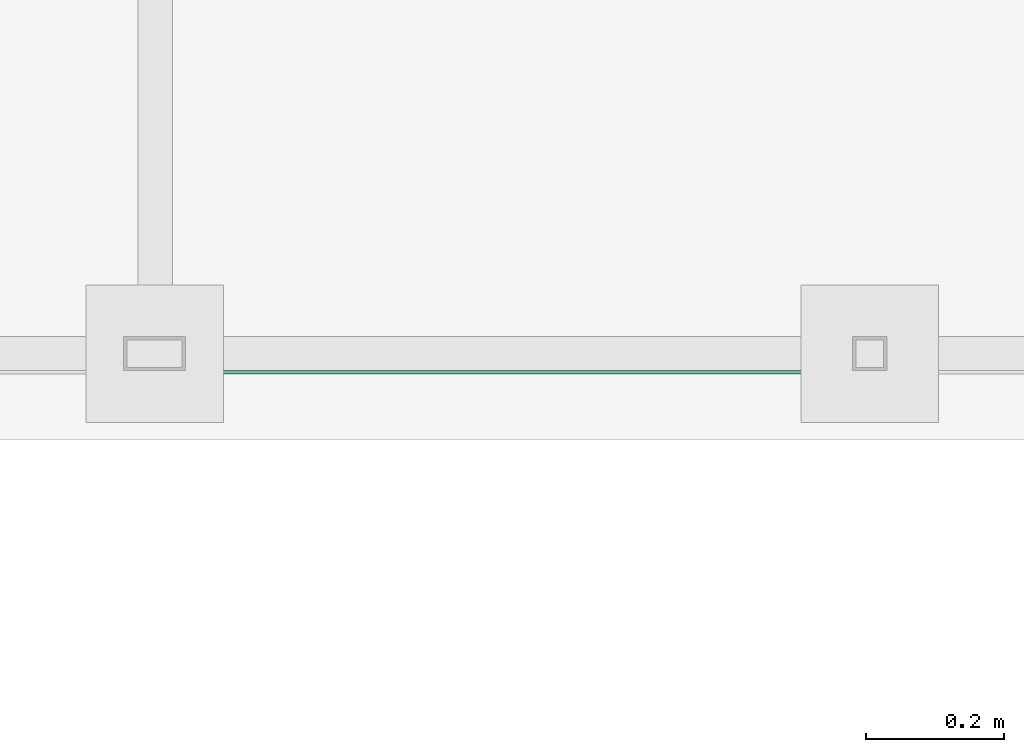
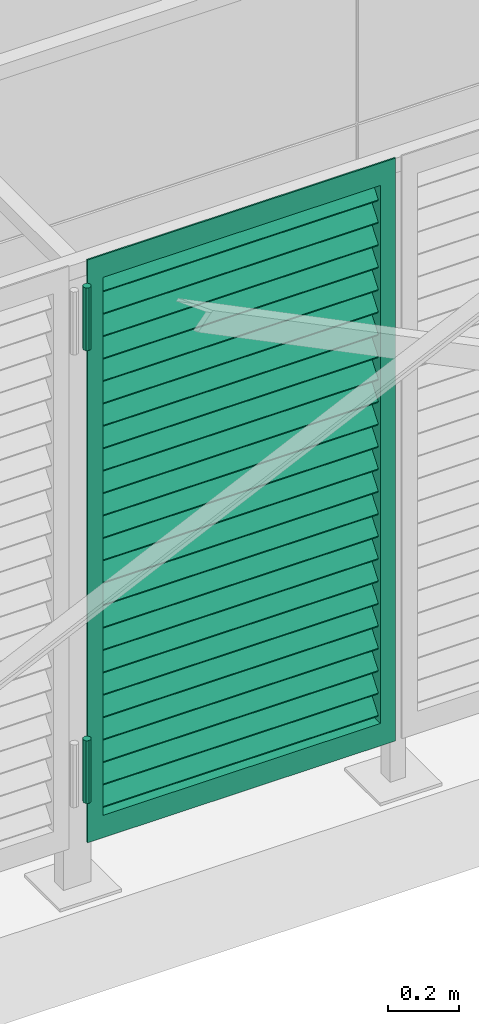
# One storey, part 176 of 418: 1 distribution flow element.
"""IFC2X3 building model written with IfcOpenShell, lengths in millimetres."""

from ifc_helpers import new_model, entity, si_unit, converted_unit, derived_unit, money_unit, direction, frame, origin_with_axes, place, context, subcontext, project, spatial, faceted_brep, source, transform, mapped, material, material_list, type_object, element, save


model = new_model("IFC2X3")

# Units and contexts
model_context = context("Model", 3, precision=0.01, world=origin_with_axes(), true_north=direction((0.0, 1.0)))
body_context = subcontext(model_context, "Body", "Model", "MODEL_VIEW")
ifc_project = project(units=[si_unit("LENGTHUNIT", "METRE", prefix="MILLI"), si_unit("AREAUNIT", "SQUARE_METRE"), si_unit("VOLUMEUNIT", "CUBIC_METRE"), converted_unit("PLANEANGLEUNIT", "DEGREE", entity("IfcPlaneAngleMeasure", 0.0174532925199), si_unit("PLANEANGLEUNIT", "RADIAN"), dimensions=[0, 0, 0, 0, 0, 0, 0]), si_unit("SOLIDANGLEUNIT", "STERADIAN"), money_unit("EUR"), converted_unit("TIMEUNIT", "Year", entity("IfcTimeMeasure", 31556926.0), si_unit("TIMEUNIT", "SECOND"), dimensions=[0, 0, 1, 0, 0, 0, 0]), si_unit("MASSUNIT", "GRAM", prefix="KILO"), si_unit("THERMODYNAMICTEMPERATUREUNIT", "DEGREE_CELSIUS"), si_unit("LUMINOUSINTENSITYUNIT", "LUMEN"), si_unit("ENERGYUNIT", "JOULE", prefix="MEGA"), derived_unit("THERMALCONDUCTANCEUNIT", [(si_unit("POWERUNIT", "WATT"), 1), (si_unit("LENGTHUNIT", "METRE"), -1), (si_unit("THERMODYNAMICTEMPERATUREUNIT", "KELVIN"), -1)]), derived_unit("SPECIFICHEATCAPACITYUNIT", [(si_unit("ENERGYUNIT", "JOULE"), 1), (si_unit("MASSUNIT", "GRAM", prefix="KILO"), -1), (si_unit("THERMODYNAMICTEMPERATUREUNIT", "KELVIN"), -1)]), derived_unit("MASSDENSITYUNIT", [(si_unit("MASSUNIT", "GRAM", prefix="KILO"), 1), (si_unit("VOLUMEUNIT", "CUBIC_METRE"), -1)])], contexts=[model_context])

# Site, building, storey
site_placement = place(None, origin_with_axes())
site = spatial("IfcSite", under=ifc_project, at=site_placement, Name="Paldiski mnt 245/1, Tallinn, Harjumaa", CompositionType="COMPLEX")
building_placement = place(site_placement, origin_with_axes())
building = spatial("IfcBuilding", under=site, at=building_placement, Name="RKAS Hoone üldnimetus (kasutust iseloomustav) -> IFC Project Manager -> SOLIBRI", CompositionType="ELEMENT")
storey_placement = place(building_placement, origin_with_axes())
storey = spatial("IfcBuildingStorey", under=building, at=storey_placement, Name="Esimene korrus", CompositionType="ELEMENT", Elevation=0.0)

# Distribution flow element
ifc_material_1 = material(Name="Teras")
ifc_material_2 = material(Name="ET-05_Teras")
ifc_material_list = material_list([ifc_material_1, ifc_material_2])
valve_type = type_object("IfcValveType", Name="Rest_1", PredefinedType="USERDEFINED")
shared_shape = source(origin_with_axes(), body_context, "Body", "Brep", [
    faceted_brep([(72.0, 25.0, 2000.0), (72.0, 25.0, 1923.07692308), (72.0, 25.0, 76.9230769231), (72.0, 25.0, 0.0), (72.0, 30.0, 0.0), (72.0, 30.0, 76.9230769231), (72.0, 30.0, 1923.07692308), (72.0, 30.0, 2000.0), (22.0, 25.0, 2000.0), (22.0, 25.0, 0.0), (22.0, 30.0, 0.0), (22.0, 30.0, 2000.0)], [[[0, 1, 2, 3, 4, 5, 6, 7]], [[3, 2, 1, 0, 8, 9]], [[10, 4, 3, 9]], [[7, 6, 5, 4, 10, 11]], [[8, 0, 7, 11]], [[8, 11, 10, 9]]]),
    faceted_brep([(972.0, 30.0, 0.0), (972.0, 25.0, 0.0), (72.0, 25.0, 0.0), (72.0, 30.0, 0.0), (972.0, 30.0, 76.9230769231), (972.0, 25.0, 76.9230769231), (72.0, 25.0, 76.9230769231), (72.0, 30.0, 76.9230769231)], [[[0, 1, 2, 3]], [[0, 4, 5, 1]], [[1, 5, 6, 2]], [[3, 2, 6, 7]], [[4, 0, 3, 7]], [[5, 4, 7, 6]]]),
    faceted_brep([(972.0, 30.0, 0.0), (972.0, 30.0, 76.9230769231), (972.0, 30.0, 1923.07692308), (972.0, 30.0, 2000.0), (1022.0, 30.0, 2000.0), (1022.0, 30.0, 0.0), (972.0, 25.0, 0.0), (972.0, 25.0, 76.9230769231), (972.0, 25.0, 1923.07692308), (972.0, 25.0, 2000.0), (1022.0, 25.0, 2000.0), (1022.0, 25.0, 0.0)], [[[0, 1, 2, 3, 4, 5]], [[6, 7, 8, 9, 3, 2, 1, 0]], [[4, 3, 9, 10]], [[10, 11, 5, 4]], [[11, 6, 0, 5]], [[9, 8, 7, 6, 11, 10]]]),
    faceted_brep([(977.0, 30.0, 76.9230769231), (972.0, 30.0, 76.9230769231), (972.0, 80.0, 76.9230769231), (977.0, 80.0, 76.9230769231), (977.0, 30.0, 1923.07692308), (972.0, 30.0, 1923.07692308), (972.0, 80.0, 1923.07692308), (977.0, 80.0, 1923.07692308)], [[[0, 1, 2, 3]], [[4, 5, 1, 0]], [[1, 5, 6, 2]], [[7, 3, 2, 6]], [[4, 0, 3, 7]], [[5, 4, 7, 6]]]),
    faceted_brep([(67.0, 30.0, 1923.07692308), (72.0, 30.0, 1923.07692308), (72.0, 80.0, 1923.07692308), (67.0, 80.0, 1923.07692308), (67.0, 30.0, 76.9230769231), (72.0, 30.0, 76.9230769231), (72.0, 80.0, 76.9230769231), (67.0, 80.0, 76.9230769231)], [[[0, 1, 2, 3]], [[4, 5, 1, 0]], [[1, 5, 6, 2]], [[7, 3, 2, 6]], [[4, 0, 3, 7]], [[5, 4, 7, 6]]]),
    faceted_brep([(972.0, 30.0, 1923.07692308), (972.0, 25.0, 1923.07692308), (72.0, 25.0, 1923.07692308), (72.0, 30.0, 1923.07692308), (972.0, 30.0, 2000.0), (972.0, 25.0, 2000.0), (72.0, 25.0, 2000.0), (72.0, 30.0, 2000.0)], [[[0, 1, 2, 3]], [[0, 4, 5, 1]], [[1, 5, 6, 2]], [[3, 2, 6, 7]], [[4, 0, 3, 7]], [[5, 4, 7, 6]]]),
    faceted_brep([(67.0, 30.0, 69.2307692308), (977.0, 30.0, 69.2307692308), (977.0, 30.0, 76.9230769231), (67.0, 30.0, 76.9230769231), (67.0, 80.0, 69.2307692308), (977.0, 80.0, 69.2307692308), (977.0, 80.0, 76.9230769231), (67.0, 80.0, 76.9230769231)], [[[0, 1, 2, 3]], [[0, 4, 5, 1]], [[1, 5, 6, 2]], [[3, 2, 6, 7]], [[4, 0, 3, 7]], [[5, 4, 7, 6]]]),
    faceted_brep([(67.0, 30.0, 1923.07692308), (977.0, 30.0, 1923.07692308), (977.0, 30.0, 1930.76923077), (67.0, 30.0, 1930.76923077), (67.0, 80.0, 1923.07692308), (977.0, 80.0, 1923.07692308), (977.0, 80.0, 1930.76923077), (67.0, 80.0, 1930.76923077)], [[[0, 1, 2, 3]], [[0, 4, 5, 1]], [[1, 5, 6, 2]], [[3, 2, 6, 7]], [[4, 0, 3, 7]], [[5, 4, 7, 6]]]),
    faceted_brep([(972.0, 77.3650491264, 141.906873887), (972.0, 39.0628269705, 92.4616731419), (72.0, 39.0628269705, 92.4616731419), (72.0, 77.3650491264, 141.906873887), (972.0, 74.151111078, 147.799523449), (972.0, 35.848888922, 98.3543227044), (72.0, 35.848888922, 98.3543227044), (72.0, 74.151111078, 147.799523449)], [[[0, 1, 2, 3]], [[0, 4, 5, 1]], [[1, 5, 6, 2]], [[3, 2, 6, 7]], [[4, 0, 3, 7]], [[5, 4, 7, 6]]]),
    faceted_brep([(972.0, 77.3650491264, 218.82995081), (972.0, 39.0628269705, 169.384750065), (72.0, 39.0628269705, 169.384750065), (72.0, 77.3650491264, 218.82995081), (972.0, 74.151111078, 224.722600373), (972.0, 35.848888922, 175.277399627), (72.0, 35.848888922, 175.277399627), (72.0, 74.151111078, 224.722600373)], [[[0, 1, 2, 3]], [[0, 4, 5, 1]], [[1, 5, 6, 2]], [[3, 2, 6, 7]], [[4, 0, 3, 7]], [[5, 4, 7, 6]]]),
    faceted_brep([(972.0, 77.3650491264, 295.753027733), (972.0, 39.0628269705, 246.307826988), (72.0, 39.0628269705, 246.307826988), (72.0, 77.3650491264, 295.753027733), (972.0, 74.151111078, 301.645677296), (972.0, 35.848888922, 252.200476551), (72.0, 35.848888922, 252.200476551), (72.0, 74.151111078, 301.645677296)], [[[0, 1, 2, 3]], [[0, 4, 5, 1]], [[1, 5, 6, 2]], [[3, 2, 6, 7]], [[4, 0, 3, 7]], [[5, 4, 7, 6]]]),
    faceted_brep([(972.0, 77.3650491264, 372.676104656), (972.0, 39.0628269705, 323.230903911), (72.0, 39.0628269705, 323.230903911), (72.0, 77.3650491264, 372.676104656), (972.0, 74.151111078, 378.568754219), (972.0, 35.848888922, 329.123553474), (72.0, 35.848888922, 329.123553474), (72.0, 74.151111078, 378.568754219)], [[[0, 1, 2, 3]], [[0, 4, 5, 1]], [[1, 5, 6, 2]], [[3, 2, 6, 7]], [[4, 0, 3, 7]], [[5, 4, 7, 6]]]),
    faceted_brep([(972.0, 77.3650491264, 449.599181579), (972.0, 39.0628269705, 400.153980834), (72.0, 39.0628269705, 400.153980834), (72.0, 77.3650491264, 449.599181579), (972.0, 74.151111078, 455.491831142), (972.0, 35.848888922, 406.046630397), (72.0, 35.848888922, 406.046630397), (72.0, 74.151111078, 455.491831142)], [[[0, 1, 2, 3]], [[0, 4, 5, 1]], [[1, 5, 6, 2]], [[3, 2, 6, 7]], [[4, 0, 3, 7]], [[5, 4, 7, 6]]]),
    faceted_brep([(972.0, 77.3650491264, 526.522258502), (972.0, 39.0628269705, 477.077057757), (72.0, 39.0628269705, 477.077057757), (72.0, 77.3650491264, 526.522258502), (972.0, 74.151111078, 532.414908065), (972.0, 35.848888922, 482.96970732), (72.0, 35.848888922, 482.96970732), (72.0, 74.151111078, 532.414908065)], [[[0, 1, 2, 3]], [[0, 4, 5, 1]], [[1, 5, 6, 2]], [[3, 2, 6, 7]], [[4, 0, 3, 7]], [[5, 4, 7, 6]]]),
    faceted_brep([(972.0, 77.3650491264, 603.445335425), (972.0, 39.0628269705, 554.00013468), (72.0, 39.0628269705, 554.00013468), (72.0, 77.3650491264, 603.445335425), (972.0, 74.151111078, 609.337984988), (972.0, 35.848888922, 559.892784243), (72.0, 35.848888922, 559.892784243), (72.0, 74.151111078, 609.337984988)], [[[0, 1, 2, 3]], [[0, 4, 5, 1]], [[1, 5, 6, 2]], [[3, 2, 6, 7]], [[4, 0, 3, 7]], [[5, 4, 7, 6]]]),
    faceted_brep([(972.0, 77.3650491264, 680.368412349), (972.0, 39.0628269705, 630.923211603), (72.0, 39.0628269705, 630.923211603), (72.0, 77.3650491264, 680.368412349), (972.0, 74.151111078, 686.261061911), (972.0, 35.848888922, 636.815861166), (72.0, 35.848888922, 636.815861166), (72.0, 74.151111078, 686.261061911)], [[[0, 1, 2, 3]], [[0, 4, 5, 1]], [[1, 5, 6, 2]], [[3, 2, 6, 7]], [[4, 0, 3, 7]], [[5, 4, 7, 6]]]),
    faceted_brep([(972.0, 77.3650491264, 757.291489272), (972.0, 39.0628269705, 707.846288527), (72.0, 39.0628269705, 707.846288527), (72.0, 77.3650491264, 757.291489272), (972.0, 74.151111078, 763.184138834), (972.0, 35.848888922, 713.738938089), (72.0, 35.848888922, 713.738938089), (72.0, 74.151111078, 763.184138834)], [[[0, 1, 2, 3]], [[0, 4, 5, 1]], [[1, 5, 6, 2]], [[3, 2, 6, 7]], [[4, 0, 3, 7]], [[5, 4, 7, 6]]]),
    faceted_brep([(972.0, 77.3650491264, 834.214566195), (972.0, 39.0628269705, 784.76936545), (72.0, 39.0628269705, 784.76936545), (72.0, 77.3650491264, 834.214566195), (972.0, 74.151111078, 840.107215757), (972.0, 35.848888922, 790.662015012), (72.0, 35.848888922, 790.662015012), (72.0, 74.151111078, 840.107215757)], [[[0, 1, 2, 3]], [[0, 4, 5, 1]], [[1, 5, 6, 2]], [[3, 2, 6, 7]], [[4, 0, 3, 7]], [[5, 4, 7, 6]]]),
    faceted_brep([(972.0, 77.3650491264, 911.137643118), (972.0, 39.0628269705, 861.692442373), (72.0, 39.0628269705, 861.692442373), (72.0, 77.3650491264, 911.137643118), (972.0, 74.151111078, 917.03029268), (972.0, 35.848888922, 867.585091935), (72.0, 35.848888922, 867.585091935), (72.0, 74.151111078, 917.03029268)], [[[0, 1, 2, 3]], [[0, 4, 5, 1]], [[1, 5, 6, 2]], [[3, 2, 6, 7]], [[4, 0, 3, 7]], [[5, 4, 7, 6]]]),
    faceted_brep([(972.0, 77.3650491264, 988.060720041), (972.0, 39.0628269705, 938.615519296), (72.0, 39.0628269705, 938.615519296), (72.0, 77.3650491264, 988.060720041), (972.0, 74.151111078, 993.953369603), (972.0, 35.848888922, 944.508168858), (72.0, 35.848888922, 944.508168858), (72.0, 74.151111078, 993.953369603)], [[[0, 1, 2, 3]], [[0, 4, 5, 1]], [[1, 5, 6, 2]], [[3, 2, 6, 7]], [[4, 0, 3, 7]], [[5, 4, 7, 6]]]),
    faceted_brep([(972.0, 77.3650491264, 1064.98379696), (972.0, 39.0628269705, 1015.53859622), (72.0, 39.0628269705, 1015.53859622), (72.0, 77.3650491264, 1064.98379696), (972.0, 74.151111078, 1070.87644653), (972.0, 35.848888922, 1021.43124578), (72.0, 35.848888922, 1021.43124578), (72.0, 74.151111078, 1070.87644653)], [[[0, 1, 2, 3]], [[0, 4, 5, 1]], [[1, 5, 6, 2]], [[3, 2, 6, 7]], [[4, 0, 3, 7]], [[5, 4, 7, 6]]]),
    faceted_brep([(972.0, 77.3650491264, 1141.90687389), (972.0, 39.0628269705, 1092.46167314), (72.0, 39.0628269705, 1092.46167314), (72.0, 77.3650491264, 1141.90687389), (972.0, 74.151111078, 1147.79952345), (972.0, 35.848888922, 1098.3543227), (72.0, 35.848888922, 1098.3543227), (72.0, 74.151111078, 1147.79952345)], [[[0, 1, 2, 3]], [[0, 4, 5, 1]], [[1, 5, 6, 2]], [[3, 2, 6, 7]], [[4, 0, 3, 7]], [[5, 4, 7, 6]]]),
    faceted_brep([(972.0, 77.3650491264, 1218.82995081), (972.0, 39.0628269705, 1169.38475006), (72.0, 39.0628269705, 1169.38475006), (72.0, 77.3650491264, 1218.82995081), (972.0, 74.151111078, 1224.72260037), (972.0, 35.848888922, 1175.27739963), (72.0, 35.848888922, 1175.27739963), (72.0, 74.151111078, 1224.72260037)], [[[0, 1, 2, 3]], [[0, 4, 5, 1]], [[1, 5, 6, 2]], [[3, 2, 6, 7]], [[4, 0, 3, 7]], [[5, 4, 7, 6]]]),
    faceted_brep([(972.0, 77.3650491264, 1295.75302773), (972.0, 39.0628269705, 1246.30782699), (72.0, 39.0628269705, 1246.30782699), (72.0, 77.3650491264, 1295.75302773), (972.0, 74.151111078, 1301.6456773), (972.0, 35.848888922, 1252.20047655), (72.0, 35.848888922, 1252.20047655), (72.0, 74.151111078, 1301.6456773)], [[[0, 1, 2, 3]], [[0, 4, 5, 1]], [[1, 5, 6, 2]], [[3, 2, 6, 7]], [[4, 0, 3, 7]], [[5, 4, 7, 6]]]),
    faceted_brep([(972.0, 77.3650491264, 1372.67610466), (972.0, 39.0628269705, 1323.23090391), (72.0, 39.0628269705, 1323.23090391), (72.0, 77.3650491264, 1372.67610466), (972.0, 74.151111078, 1378.56875422), (972.0, 35.848888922, 1329.12355347), (72.0, 35.848888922, 1329.12355347), (72.0, 74.151111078, 1378.56875422)], [[[0, 1, 2, 3]], [[0, 4, 5, 1]], [[1, 5, 6, 2]], [[3, 2, 6, 7]], [[4, 0, 3, 7]], [[5, 4, 7, 6]]]),
    faceted_brep([(972.0, 77.3650491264, 1449.59918158), (972.0, 39.0628269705, 1400.15398083), (72.0, 39.0628269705, 1400.15398083), (72.0, 77.3650491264, 1449.59918158), (972.0, 74.151111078, 1455.49183114), (972.0, 35.848888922, 1406.0466304), (72.0, 35.848888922, 1406.0466304), (72.0, 74.151111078, 1455.49183114)], [[[0, 1, 2, 3]], [[0, 4, 5, 1]], [[1, 5, 6, 2]], [[3, 2, 6, 7]], [[4, 0, 3, 7]], [[5, 4, 7, 6]]]),
    faceted_brep([(972.0, 77.3650491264, 1526.5222585), (972.0, 39.0628269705, 1477.07705776), (72.0, 39.0628269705, 1477.07705776), (72.0, 77.3650491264, 1526.5222585), (972.0, 74.151111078, 1532.41490806), (972.0, 35.848888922, 1482.96970732), (72.0, 35.848888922, 1482.96970732), (72.0, 74.151111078, 1532.41490806)], [[[0, 1, 2, 3]], [[0, 4, 5, 1]], [[1, 5, 6, 2]], [[3, 2, 6, 7]], [[4, 0, 3, 7]], [[5, 4, 7, 6]]]),
    faceted_brep([(972.0, 77.3650491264, 1603.44533543), (972.0, 39.0628269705, 1554.00013468), (72.0, 39.0628269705, 1554.00013468), (72.0, 77.3650491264, 1603.44533543), (972.0, 74.151111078, 1609.33798499), (972.0, 35.848888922, 1559.89278424), (72.0, 35.848888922, 1559.89278424), (72.0, 74.151111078, 1609.33798499)], [[[0, 1, 2, 3]], [[0, 4, 5, 1]], [[1, 5, 6, 2]], [[3, 2, 6, 7]], [[4, 0, 3, 7]], [[5, 4, 7, 6]]]),
    faceted_brep([(972.0, 77.3650491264, 1680.36841235), (972.0, 39.0628269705, 1630.9232116), (72.0, 39.0628269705, 1630.9232116), (72.0, 77.3650491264, 1680.36841235), (972.0, 74.151111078, 1686.26106191), (972.0, 35.848888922, 1636.81586117), (72.0, 35.848888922, 1636.81586117), (72.0, 74.151111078, 1686.26106191)], [[[0, 1, 2, 3]], [[0, 4, 5, 1]], [[1, 5, 6, 2]], [[3, 2, 6, 7]], [[4, 0, 3, 7]], [[5, 4, 7, 6]]]),
    faceted_brep([(972.0, 77.3650491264, 1757.29148927), (972.0, 39.0628269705, 1707.84628853), (72.0, 39.0628269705, 1707.84628853), (72.0, 77.3650491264, 1757.29148927), (972.0, 74.151111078, 1763.18413883), (972.0, 35.848888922, 1713.73893809), (72.0, 35.848888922, 1713.73893809), (72.0, 74.151111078, 1763.18413883)], [[[0, 1, 2, 3]], [[0, 4, 5, 1]], [[1, 5, 6, 2]], [[3, 2, 6, 7]], [[4, 0, 3, 7]], [[5, 4, 7, 6]]]),
    faceted_brep([(972.0, 77.3650491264, 1834.21456619), (972.0, 39.0628269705, 1784.76936545), (72.0, 39.0628269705, 1784.76936545), (72.0, 77.3650491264, 1834.21456619), (972.0, 74.151111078, 1840.10721576), (972.0, 35.848888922, 1790.66201501), (72.0, 35.848888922, 1790.66201501), (72.0, 74.151111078, 1840.10721576)], [[[0, 1, 2, 3]], [[0, 4, 5, 1]], [[1, 5, 6, 2]], [[3, 2, 6, 7]], [[4, 0, 3, 7]], [[5, 4, 7, 6]]]),
    faceted_brep([(972.0, 77.3650491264, 1911.13764312), (972.0, 39.0628269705, 1861.69244237), (72.0, 39.0628269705, 1861.69244237), (72.0, 77.3650491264, 1911.13764312), (972.0, 74.151111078, 1917.03029268), (972.0, 35.848888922, 1867.58509194), (72.0, 35.848888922, 1867.58509194), (72.0, 74.151111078, 1917.03029268)], [[[0, 1, 2, 3]], [[0, 4, 5, 1]], [[1, 5, 6, 2]], [[3, 2, 6, 7]], [[4, 0, 3, 7]], [[5, 4, 7, 6]]]),
    faceted_brep([(0.0, 12.5, 153.846153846), (3.66116523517, 3.66116523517, 153.846153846), (3.66116523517, 3.66116523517, 369.230769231), (0.0, 12.5, 369.230769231), (3.66116523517, 21.3388347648, 153.846153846), (12.5, 25.0, 153.846153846), (21.3388347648, 21.3388347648, 153.846153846), (25.0, 12.5, 153.846153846), (21.3388347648, 3.66116523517, 153.846153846), (12.5, 0.0, 153.846153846), (12.5, 0.0, 369.230769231), (21.3388347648, 3.66116523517, 369.230769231), (25.0, 12.5, 369.230769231), (21.3388347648, 21.3388347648, 369.230769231), (12.5, 25.0, 369.230769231), (3.66116523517, 21.3388347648, 369.230769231)], [[[0, 1, 2, 3]], [[0, 4, 5, 6, 7, 8, 9, 1]], [[1, 9, 10, 2]], [[3, 2, 10, 11, 12, 13, 14, 15]], [[4, 0, 3, 15]], [[5, 4, 15, 14]], [[6, 5, 14, 13]], [[7, 6, 13, 12]], [[8, 7, 12, 11]], [[9, 8, 11, 10]]]),
    faceted_brep([(0.0, 12.5, 1707.69230769), (3.66116523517, 3.66116523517, 1707.69230769), (3.66116523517, 3.66116523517, 1923.07692308), (0.0, 12.5, 1923.07692308), (3.66116523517, 21.3388347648, 1707.69230769), (12.5, 25.0, 1707.69230769), (21.3388347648, 21.3388347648, 1707.69230769), (25.0, 12.5, 1707.69230769), (21.3388347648, 3.66116523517, 1707.69230769), (12.5, 0.0, 1707.69230769), (12.5, 0.0, 1923.07692308), (21.3388347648, 3.66116523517, 1923.07692308), (25.0, 12.5, 1923.07692308), (21.3388347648, 21.3388347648, 1923.07692308), (12.5, 25.0, 1923.07692308), (3.66116523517, 21.3388347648, 1923.07692308)], [[[0, 1, 2, 3]], [[0, 4, 5, 6, 7, 8, 9, 1]], [[1, 9, 10, 2]], [[3, 2, 10, 11, 12, 13, 14, 15]], [[4, 0, 3, 15]], [[5, 4, 15, 14]], [[6, 5, 14, 13]], [[7, 6, 13, 12]], [[8, 7, 12, 11]], [[9, 8, 11, 10]]]),
])
distribution_flow_element_placement = place(storey_placement, frame((-53721.4373183, -1585.71022117, 0.0), z_axis=(0.0, 0.0, 1.0), x_axis=(1.0, 0.0, 0.0)))
element("IfcDistributionFlowElement", 1, at=distribution_flow_element_placement, inside=storey, type_object=valve_type, material=ifc_material_list, Name="Trapp", ObjectType="Distribution Flow Element", context=body_context, shape_type="MappedRepresentation", body=[
    mapped(shared_shape, transform((0.0, 0.0, 0.0))),
])

save(model, "model.ifc")
